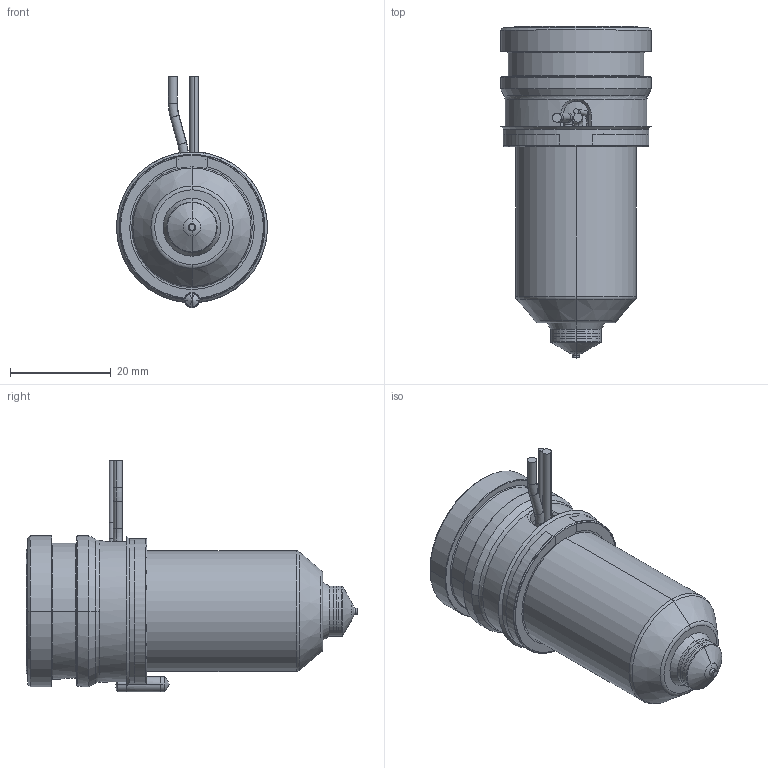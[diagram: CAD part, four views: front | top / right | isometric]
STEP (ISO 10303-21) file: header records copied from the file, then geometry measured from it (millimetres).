
FILE_DESCRIPTION((''),'2;1');
FILE_NAME('MPN-10-29-VSA10-046-A','2026-02-05T12:43:55',('UPTIO'),('Thermoplay S.p.A.'),'CREO PARAMETRIC BY PTC INC, 2023494','CREO PARAMETRIC BY PTC INC, 2023494','');
FILE_SCHEMA(('CONFIG_CONTROL_DESIGN','SHAPE_APPEARANCE_LAYERS_GROUPS'));
Length unit declared in the file: millimetre
Products named in the file (1): MPN-10-29-VSA10-046-A
Bounding box: 30 x 66 x 46 mm (x, y, z)
Volume: 22451 mm3; surface area: 21170 mm2
Topology: 2 solids, 3 shells, 527 faces, 1379 edges, 852 vertices
Faces by surface type: cylinder 182, plane 131, cone 70, bspline 66, torus 65, sphere 9, extrusion 4
Entity records: 27730 total; most frequent: CARTESIAN_POINT 12134, ORIENTED_EDGE 2746, DIRECTION 2563, EDGE_CURVE 1373, AXIS2_PLACEMENT_3D 1013, VERTEX_POINT 852, EDGE_LOOP 555, CIRCLE 555
